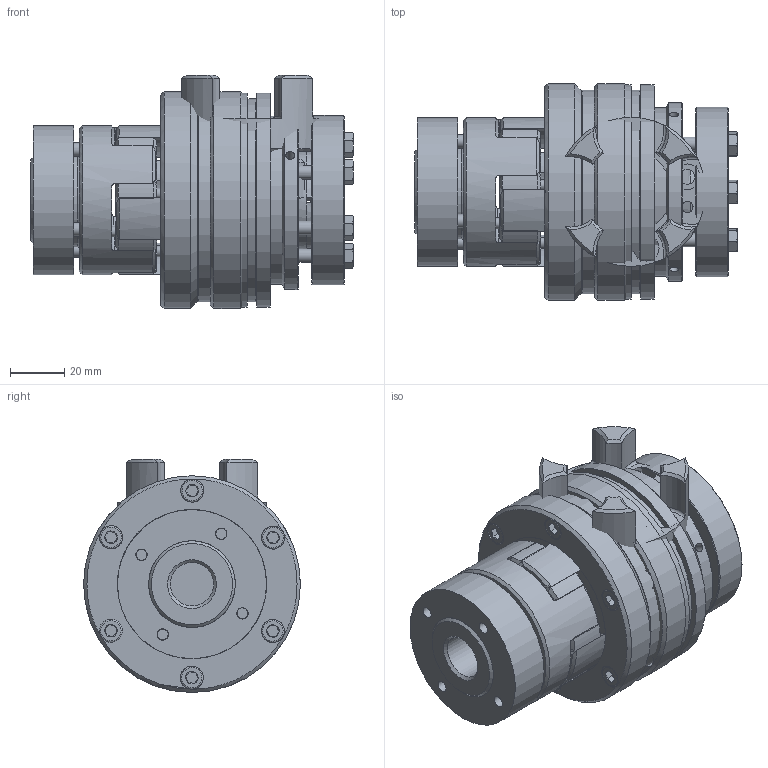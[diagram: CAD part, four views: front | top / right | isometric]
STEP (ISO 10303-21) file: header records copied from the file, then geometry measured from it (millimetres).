
FILE_DESCRIPTION( ( 'Unknown' ), '1' );
FILE_NAME( 'C:/Dokumente und Einstellungen/Sven/Desktop/hp kbk/E-AA/KBK EAA-24-106.stp', 'Unknown', ( 'Unknown' ), ( 'Unknown' ), 'XStep 1.0', 'Unknown', ' ' );
FILE_SCHEMA( ( 'automotive_design' ) );
Length unit declared in the file: millimetre
Products named in the file (17): Assem1; Assem2; ball_bearing_-_6007_0_01; ball_bearing_-_6007_0_02; ball_bearing_-_6007_0_03; Stellring 60; Druckring 60; Flansch 60; a_35; Elastomerflansch 24; Zahnkranz_24_Standard; ISO EN DIN 4762_M5x20; KBK L-A-60 Grundkörper; Druckring L-A-60; din_en_24017_m5x20; KBE 3 - 24_Nabe; KBE3-24_Druckring
Bounding box: 119.15 x 80 x 86 mm (x, y, z)
Volume: 639714.1 mm3; surface area: 267953 mm2
Topology: 47 solids, 47 shells, 1228 faces, 2637 edges, 1612 vertices
Faces by surface type: plane 395, cone 395, cylinder 356, torus 82
Full cylindrical faces by diameter (mm): 2.5 x4, 3.242 x6, 4 x22, 4.134 x24, 4.2 x12, 5 x18, 5.2 x12, 5.5 x20, 6.88 x7, 8.5 x23, 9.5 x8, 15 x2, 16 x2, 27 x4, 30 x4, 33 x2, 34.625 x2, 35 x7, 35.937 x2, 43.7 x6, 44 x2, 46 x4, 46.5 x2, 53.6 x6, 55 x6, 61.3 x2, 62 x7, 62.5 x2, 66 x2, 75 x4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
Entity records: 12828 total; most frequent: CARTESIAN_POINT 2865, DIRECTION 2174, ORIENTED_EDGE 1668, AXIS2_PLACEMENT_3D 1021, EDGE_CURVE 834, EDGE_LOOP 710, VERTEX_POINT 588, FACE_OUTER_BOUND 565
